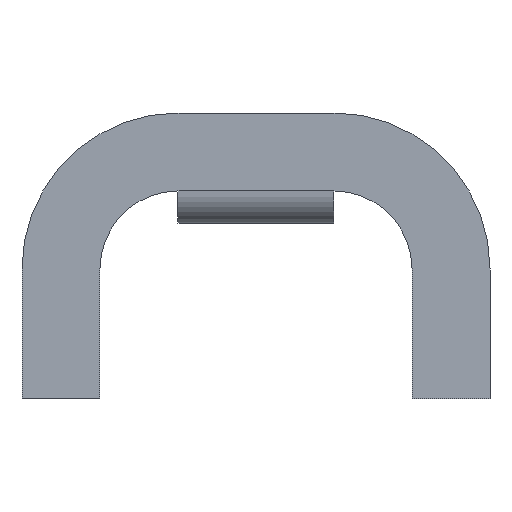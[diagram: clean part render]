
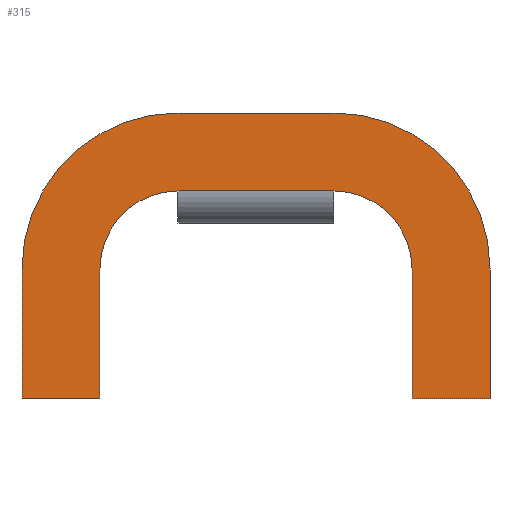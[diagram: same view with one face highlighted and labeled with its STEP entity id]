
A CAD part, front view. The second image highlights one B-rep face of the part: STEP entity #315.
In plain terms, the highlighted planar face has unit normal (0, -1, 0).
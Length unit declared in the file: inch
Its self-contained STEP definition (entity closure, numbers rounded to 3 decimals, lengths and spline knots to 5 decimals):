
#15=CIRCLE('',#348,3.);
#18=CIRCLE('',#352,1.5);
#19=CIRCLE('',#355,3.);
#22=CIRCLE('',#359,1.5);
#43=FACE_OUTER_BOUND('',#61,.T.);
#61=EDGE_LOOP('',(#253,#254,#255,#256,#257,#258,#259,#260,#261,#262,#263,
#264));
#70=LINE('',#475,#102);
#76=LINE('',#487,#108);
#80=LINE('',#504,#112);
#86=LINE('',#525,#118);
#93=LINE('',#536,#125);
#94=LINE('',#538,#126);
#95=LINE('',#539,#127);
#96=LINE('',#540,#128);
#102=VECTOR('',#380,1.);
#108=VECTOR('',#388,1.);
#112=VECTOR('',#406,1.);
#118=VECTOR('',#426,1.);
#125=VECTOR('',#437,1.);
#126=VECTOR('',#440,1.);
#127=VECTOR('',#441,1.);
#128=VECTOR('',#442,1.);
#134=VERTEX_POINT('',#472);
#135=VERTEX_POINT('',#474);
#137=VERTEX_POINT('',#480);
#140=VERTEX_POINT('',#485);
#142=VERTEX_POINT('',#490);
#143=VERTEX_POINT('',#495);
#146=VERTEX_POINT('',#502);
#148=VERTEX_POINT('',#508);
#149=VERTEX_POINT('',#513);
#152=VERTEX_POINT('',#518);
#154=VERTEX_POINT('',#523);
#156=VERTEX_POINT('',#534);
#162=EDGE_CURVE('',#134,#135,#70,.T.);
#168=EDGE_CURVE('',#137,#140,#76,.T.);
#170=EDGE_CURVE('',#142,#134,#15,.T.);
#174=EDGE_CURVE('',#143,#137,#18,.T.);
#176=EDGE_CURVE('',#146,#142,#80,.T.);
#179=EDGE_CURVE('',#148,#146,#19,.T.);
#184=EDGE_CURVE('',#149,#152,#22,.T.);
#186=EDGE_CURVE('',#154,#148,#86,.T.);
#193=EDGE_CURVE('',#156,#149,#93,.T.);
#194=EDGE_CURVE('',#154,#156,#94,.T.);
#195=EDGE_CURVE('',#152,#143,#95,.T.);
#196=EDGE_CURVE('',#135,#140,#96,.T.);
#253=ORIENTED_EDGE('',*,*,#194,.T.);
#254=ORIENTED_EDGE('',*,*,#193,.T.);
#255=ORIENTED_EDGE('',*,*,#184,.T.);
#256=ORIENTED_EDGE('',*,*,#195,.T.);
#257=ORIENTED_EDGE('',*,*,#174,.T.);
#258=ORIENTED_EDGE('',*,*,#168,.T.);
#259=ORIENTED_EDGE('',*,*,#196,.F.);
#260=ORIENTED_EDGE('',*,*,#162,.F.);
#261=ORIENTED_EDGE('',*,*,#170,.F.);
#262=ORIENTED_EDGE('',*,*,#176,.F.);
#263=ORIENTED_EDGE('',*,*,#179,.F.);
#264=ORIENTED_EDGE('',*,*,#186,.F.);
#299=PLANE('',#363);
#315=ADVANCED_FACE('',(#43),#299,.T.);
#348=AXIS2_PLACEMENT_3D('',#492,#392,#393);
#352=AXIS2_PLACEMENT_3D('',#499,#401,#402);
#355=AXIS2_PLACEMENT_3D('',#510,#411,#412);
#359=AXIS2_PLACEMENT_3D('',#520,#421,#422);
#363=AXIS2_PLACEMENT_3D('',#537,#438,#439);
#380=DIRECTION('',(0.,0.,-1.));
#388=DIRECTION('',(0.,0.,-1.));
#392=DIRECTION('center_axis',(0.,1.,0.));
#393=DIRECTION('ref_axis',(0.,0.,
1.));
#401=DIRECTION('center_axis',(0.,1.,0.));
#402=DIRECTION('ref_axis',(0.,0.,1.));
#406=DIRECTION('',(1.,0.,0.));
#411=DIRECTION('center_axis',(0.,1.,0.));
#412=DIRECTION('ref_axis',(-1.,0.,0.));
#421=DIRECTION('center_axis',(0.,1.,0.));
#422=DIRECTION('ref_axis',(-1.,0.,0.));
#426=DIRECTION('',(0.,0.,1.));
#437=DIRECTION('',(0.,0.,1.));
#438=DIRECTION('center_axis',(0.,-1.,0.));
#439=DIRECTION('ref_axis',(1.,0.,0.));
#440=DIRECTION('',(1.,0.,0.));
#441=DIRECTION('',(1.,0.,0.));
#442=DIRECTION('',(-1.,0.,0.));
#472=CARTESIAN_POINT('',(9.,0.,2.5));
#474=CARTESIAN_POINT('',(9.,0.,0.));
#475=CARTESIAN_POINT('',(9.,0.,2.5));
#480=CARTESIAN_POINT('',(7.5,0.,2.5));
#485=CARTESIAN_POINT('',(7.5,0.,0.));
#487=CARTESIAN_POINT('',(7.5,0.,2.5));
#490=CARTESIAN_POINT('',(6.,0.,5.5));
#492=CARTESIAN_POINT('Origin',(6.,0.,2.5));
#495=CARTESIAN_POINT('',(6.,0.,4.));
#499=CARTESIAN_POINT('Origin',(6.,0.,2.5));
#502=CARTESIAN_POINT('',(3.,0.,5.5));
#504=CARTESIAN_POINT('',(3.,0.,5.5));
#508=CARTESIAN_POINT('',(0.,0.,2.5));
#510=CARTESIAN_POINT('Origin',(3.,0.,2.5));
#513=CARTESIAN_POINT('',(1.5,0.,2.5));
#518=CARTESIAN_POINT('',(3.,0.,4.));
#520=CARTESIAN_POINT('Origin',(3.,0.,2.5));
#523=CARTESIAN_POINT('',(0.,0.,0.));
#525=CARTESIAN_POINT('',(0.,0.,0.));
#534=CARTESIAN_POINT('',(1.5,0.,0.));
#536=CARTESIAN_POINT('',(1.5,0.,0.));
#537=CARTESIAN_POINT('Origin',(0.,0.,0.));
#538=CARTESIAN_POINT('',(0.,0.,0.));
#539=CARTESIAN_POINT('',(3.,0.,4.));
#540=CARTESIAN_POINT('',(9.,0.,0.));
